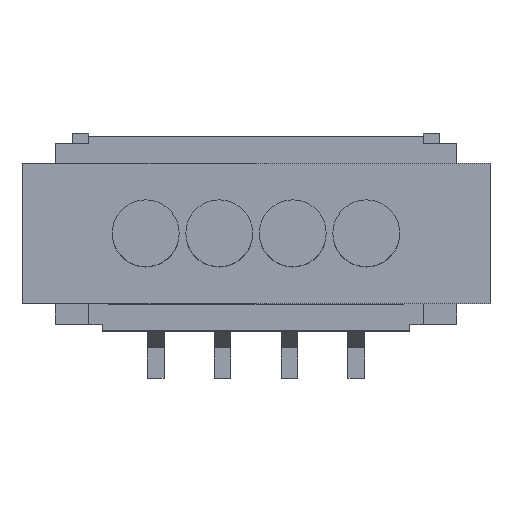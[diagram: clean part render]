
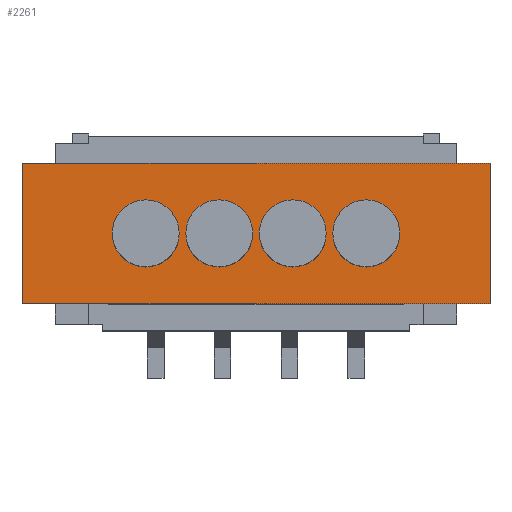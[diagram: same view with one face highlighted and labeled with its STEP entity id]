
A CAD part, top view. The second image highlights one B-rep face of the part: STEP entity #2261.
In plain terms, the highlighted planar face has unit normal (0, 0, 1).
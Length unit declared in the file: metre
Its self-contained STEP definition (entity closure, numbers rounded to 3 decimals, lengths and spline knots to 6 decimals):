
#16=CIRCLE('',#2810,0.0005);
#17=CIRCLE('',#2811,0.0005);
#18=CIRCLE('',#2812,0.0005);
#19=CIRCLE('',#2813,0.0005);
#584=ORIENTED_EDGE('',*,*,#918,.F.);
#585=ORIENTED_EDGE('',*,*,#919,.F.);
#586=ORIENTED_EDGE('',*,*,#920,.F.);
#587=ORIENTED_EDGE('',*,*,#921,.F.);
#588=ORIENTED_EDGE('',*,*,#922,.T.);
#589=ORIENTED_EDGE('',*,*,#913,.T.);
#590=ORIENTED_EDGE('',*,*,#923,.F.);
#591=ORIENTED_EDGE('',*,*,#908,.F.);
#908=EDGE_CURVE('',#1108,#1109,#1404,.T.);
#913=EDGE_CURVE('',#1112,#1113,#1409,.T.);
#918=EDGE_CURVE('',#1116,#1116,#16,.T.);
#919=EDGE_CURVE('',#1117,#1117,#17,.T.);
#920=EDGE_CURVE('',#1118,#1118,#18,.T.);
#921=EDGE_CURVE('',#1119,#1119,#19,.T.);
#922=EDGE_CURVE('',#1108,#1112,#1414,.T.);
#923=EDGE_CURVE('',#1109,#1113,#1415,.T.);
#1108=VERTEX_POINT('',#3945);
#1109=VERTEX_POINT('',#3946);
#1112=VERTEX_POINT('',#3955);
#1113=VERTEX_POINT('',#3956);
#1116=VERTEX_POINT('',#3965);
#1117=VERTEX_POINT('',#3967);
#1118=VERTEX_POINT('',#3969);
#1119=VERTEX_POINT('',#3971);
#1404=LINE('',#3944,#1698);
#1409=LINE('',#3954,#1703);
#1414=LINE('',#3972,#1708);
#1415=LINE('',#3973,#1709);
#1698=VECTOR('',#3322,1.);
#1703=VECTOR('',#3329,1.);
#1708=VECTOR('',#3344,1.);
#1709=VECTOR('',#3345,1.);
#1819=EDGE_LOOP('',(#584));
#1820=EDGE_LOOP('',(#585));
#1821=EDGE_LOOP('',(#586));
#1822=EDGE_LOOP('',(#587));
#1823=EDGE_LOOP('',(#588,#589,#590,#591));
#1947=FACE_BOUND('',#1819,.T.);
#1948=FACE_BOUND('',#1820,.T.);
#1949=FACE_BOUND('',#1821,.T.);
#1950=FACE_BOUND('',#1822,.T.);
#1951=FACE_BOUND('',#1823,.T.);
#2074=PLANE('',#2809);
#2261=ADVANCED_FACE('',(#1947,#1948,#1949,#1950,#1951),#2074,.T.);
#2809=AXIS2_PLACEMENT_3D('',#3963,#3334,#3335);
#2810=AXIS2_PLACEMENT_3D('',#3964,#3336,#3337);
#2811=AXIS2_PLACEMENT_3D('',#3966,#3338,#3339);
#2812=AXIS2_PLACEMENT_3D('',#3968,#3340,#3341);
#2813=AXIS2_PLACEMENT_3D('',#3970,#3342,#3343);
#3322=DIRECTION('',(1.,0.,0.));
#3329=DIRECTION('',(1.,0.,0.));
#3334=DIRECTION('',(0.,0.,1.));
#3335=DIRECTION('',(1.,0.,0.));
#3336=DIRECTION('',(0.,0.,1.));
#3337=DIRECTION('',(1.,0.,0.));
#3338=DIRECTION('',(0.,0.,1.));
#3339=DIRECTION('',(1.,0.,0.));
#3340=DIRECTION('',(0.,0.,1.));
#3341=DIRECTION('',(1.,0.,0.));
#3342=DIRECTION('',(0.,0.,1.));
#3343=DIRECTION('',(1.,0.,0.));
#3344=DIRECTION('',(0.,-1.,0.));
#3345=DIRECTION('',(0.,-1.,0.));
#3944=CARTESIAN_POINT('',(0.,0.00105,0.00645));
#3945=CARTESIAN_POINT('',(-0.0035,0.00105,0.00645));
#3946=CARTESIAN_POINT('',(0.0035,0.00105,0.00645));
#3954=CARTESIAN_POINT('',(0.,-0.00105,0.00645));
#3955=CARTESIAN_POINT('',(-0.0035,-0.00105,0.00645));
#3956=CARTESIAN_POINT('',(0.0035,-0.00105,0.00645));
#3963=CARTESIAN_POINT('',(0.,0.,0.00645));
#3964=CARTESIAN_POINT('',(0.00165,0.,0.00645));
#3965=CARTESIAN_POINT('',(0.00215,0.,0.00645));
#3966=CARTESIAN_POINT('',(0.00055,0.,0.00645));
#3967=CARTESIAN_POINT('',(0.00105,0.,0.00645));
#3968=CARTESIAN_POINT('',(-0.00055,0.,0.00645));
#3969=CARTESIAN_POINT('',(-0.00005,0.,0.00645));
#3970=CARTESIAN_POINT('',(-0.00165,0.,0.00645));
#3971=CARTESIAN_POINT('',(-0.00115,0.,0.00645));
#3972=CARTESIAN_POINT('',(-0.0035,0.,0.00645));
#3973=CARTESIAN_POINT('',(0.0035,0.,0.00645));
